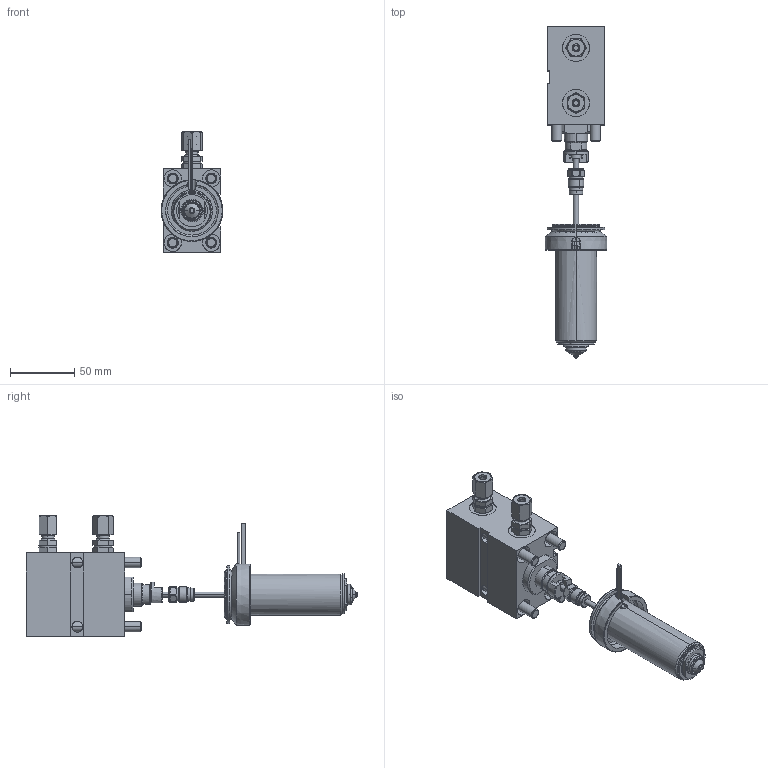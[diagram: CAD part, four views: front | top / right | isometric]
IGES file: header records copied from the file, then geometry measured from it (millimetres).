
Start section: Write IGES format                                    datakit 2008 (c)
Global section: file name: Unknown; native system: DATAKIT Converter; preprocessor: Unknown; author: Unknown; organization: Unknown; date: 950613.180003; units: millimetre
Bounding box: 48 x 258.5 x 94.01 mm (x, y, z)
Surface area: 121808.1 mm2 (no closed solid volume)
Topology: 0 solids, 0 shells, 748 faces, 3366 edges, 3352 vertices
Faces by surface type: revolution 472, bspline 276
